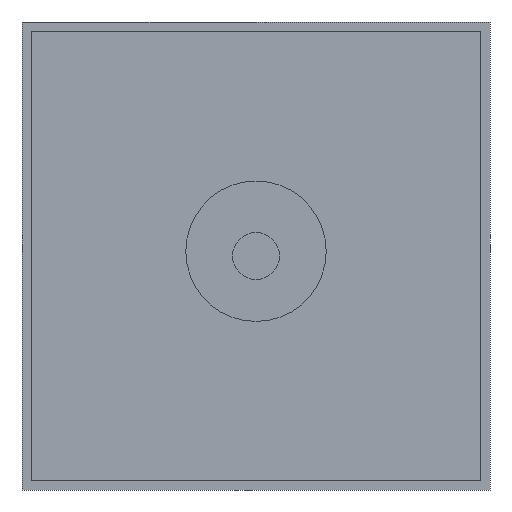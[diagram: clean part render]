
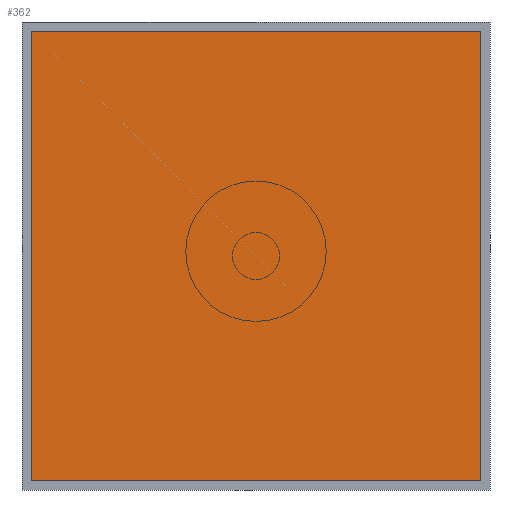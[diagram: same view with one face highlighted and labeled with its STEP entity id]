
A CAD part, front view. The second image highlights one B-rep face of the part: STEP entity #362.
In plain terms, the highlighted planar face has unit normal (0, -1, 0).
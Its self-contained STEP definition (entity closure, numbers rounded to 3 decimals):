
#82 = CARTESIAN_POINT ( 'NONE',  ( -50., 98., 48. ) ) ;
#103 = EDGE_CURVE ( 'NONE', #643, #418, #521, .T. ) ;
#125 = VECTOR ( 'NONE', #707, 1000. ) ;
#177 = DIRECTION ( 'NONE',  ( 0., 0., 1. ) ) ;
#178 = CARTESIAN_POINT ( 'NONE',  ( 0., 98., 0. ) ) ;
#183 = CARTESIAN_POINT ( 'NONE',  ( -48., 98., -48. ) ) ;
#214 = EDGE_CURVE ( 'NONE', #418, #675, #729, .T. ) ;
#225 = VECTOR ( 'NONE', #610, 1000. ) ;
#256 = ORIENTED_EDGE ( 'NONE', *, *, #593, .F. ) ;
#264 = EDGE_LOOP ( 'NONE', ( #320, #496, #769, #256 ) ) ;
#302 = PLANE ( 'NONE',  #680 ) ;
#320 = ORIENTED_EDGE ( 'NONE', *, *, #214, .F. ) ;
#362 = ADVANCED_FACE ( 'NONE', ( #798 ), #302, .F. ) ;
#365 = DIRECTION ( 'NONE',  ( 0., 1., 0. ) ) ;
#377 = EDGE_CURVE ( 'NONE', #379, #643, #787, .T. ) ;
#379 = VERTEX_POINT ( 'NONE', #183 ) ;
#395 = CARTESIAN_POINT ( 'NONE',  ( -50., 98., -48. ) ) ;
#403 = LINE ( 'NONE', #395, #125 ) ;
#418 = VERTEX_POINT ( 'NONE', #559 ) ;
#496 = ORIENTED_EDGE ( 'NONE', *, *, #103, .F. ) ;
#521 = LINE ( 'NONE', #82, #739 ) ;
#537 = CARTESIAN_POINT ( 'NONE',  ( 48., 98., -50. ) ) ;
#559 = CARTESIAN_POINT ( 'NONE',  ( 48., 98., 48. ) ) ;
#574 = CARTESIAN_POINT ( 'NONE',  ( 48., 98., -48. ) ) ;
#593 = EDGE_CURVE ( 'NONE', #675, #379, #403, .T. ) ;
#610 = DIRECTION ( 'NONE',  ( 0., 0., -1. ) ) ;
#623 = CARTESIAN_POINT ( 'NONE',  ( -48., 98., -50. ) ) ;
#643 = VERTEX_POINT ( 'NONE', #701 ) ;
#675 = VERTEX_POINT ( 'NONE', #574 ) ;
#680 = AXIS2_PLACEMENT_3D ( 'NONE', #178, #365, #816 ) ;
#701 = CARTESIAN_POINT ( 'NONE',  ( -48., 98., 48. ) ) ;
#707 = DIRECTION ( 'NONE',  ( -1., 0., 0. ) ) ;
#729 = LINE ( 'NONE', #537, #225 ) ;
#733 = VECTOR ( 'NONE', #177, 1000. ) ;
#739 = VECTOR ( 'NONE', #785, 1000. ) ;
#769 = ORIENTED_EDGE ( 'NONE', *, *, #377, .F. ) ;
#785 = DIRECTION ( 'NONE',  ( 1., 0., 0. ) ) ;
#787 = LINE ( 'NONE', #623, #733 ) ;
#798 = FACE_OUTER_BOUND ( 'NONE', #264, .T. ) ;
#816 = DIRECTION ( 'NONE',  ( 0., 0., 1. ) ) ;
